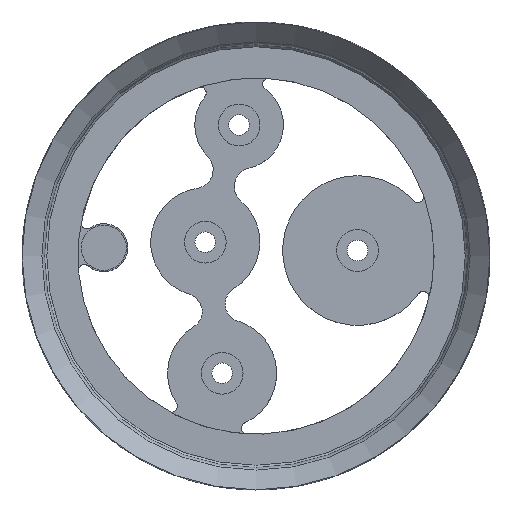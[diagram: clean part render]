
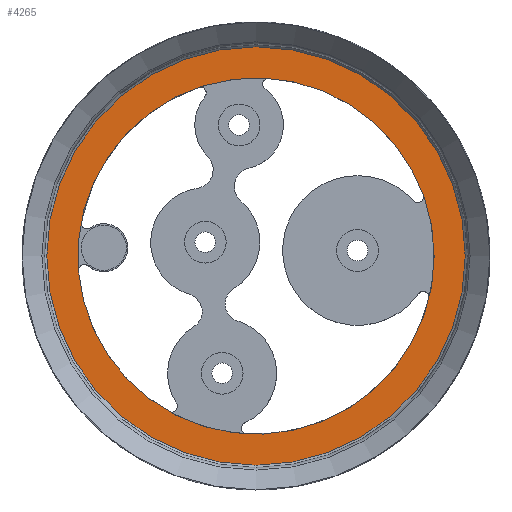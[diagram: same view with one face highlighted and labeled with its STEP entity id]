
A CAD part, top view. The second image highlights one B-rep face of the part: STEP entity #4265.
In plain terms, the highlighted planar face has unit normal (0, 0, 1).
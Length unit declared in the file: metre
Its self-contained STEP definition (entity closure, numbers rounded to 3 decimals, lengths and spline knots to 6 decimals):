
#739=ORIENTED_EDGE('',*,*,#2055,.T.);
#740=ORIENTED_EDGE('',*,*,#2056,.T.);
#2055=EDGE_CURVE('',#2713,#2713,#3157,.F.);
#2056=EDGE_CURVE('',#2714,#2714,#3158,.T.);
#2713=VERTEX_POINT('',#5751);
#2714=VERTEX_POINT('',#5753);
#3157=CIRCLE('',#4585,0.0356);
#3158=CIRCLE('',#4586,0.030313);
#3328=EDGE_LOOP('',(#739));
#3329=EDGE_LOOP('',(#740));
#3736=FACE_BOUND('',#3328,.T.);
#3737=FACE_BOUND('',#3329,.T.);
#4144=PLANE('',#4584);
#4265=ADVANCED_FACE('',(#3736,#3737),#4144,.F.);
#4584=AXIS2_PLACEMENT_3D('',#5749,#4955,#4956);
#4585=AXIS2_PLACEMENT_3D('',#5750,#4957,#4958);
#4586=AXIS2_PLACEMENT_3D('',#5752,#4959,#4960);
#4955=DIRECTION('',(0.,0.,-1.));
#4956=DIRECTION('',(1.,0.,0.));
#4957=DIRECTION('',(0.,0.,-1.));
#4958=DIRECTION('',(1.,0.,0.));
#4959=DIRECTION('',(0.,0.,-1.));
#4960=DIRECTION('',(1.,0.,0.));
#5749=CARTESIAN_POINT('',(0.,0.,0.0312));
#5750=CARTESIAN_POINT('',(0.,0.,0.0312));
#5751=CARTESIAN_POINT('',(0.0356,0.,0.0312));
#5752=CARTESIAN_POINT('',(0.,0.,0.0312));
#5753=CARTESIAN_POINT('',(0.030313,0.,0.0312));
